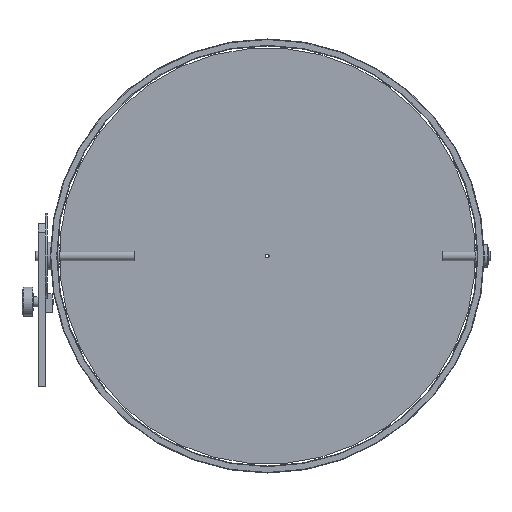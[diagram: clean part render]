
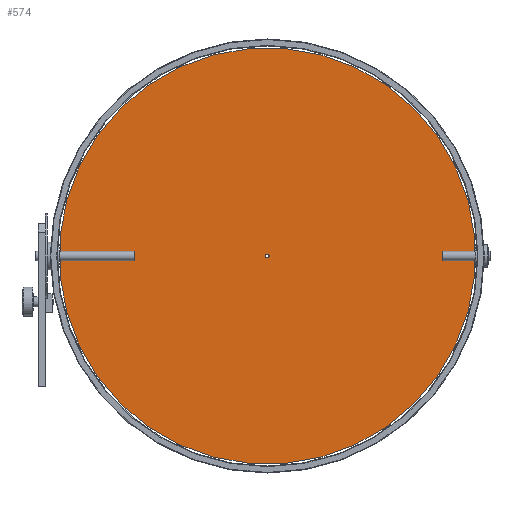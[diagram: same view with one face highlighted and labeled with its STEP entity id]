
A CAD part, left-side view. The second image highlights one B-rep face of the part: STEP entity #574.
In plain terms, the highlighted planar face has unit normal (-1, 0, 0).
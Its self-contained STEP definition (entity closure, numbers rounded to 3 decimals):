
#235=LINE('',#2901,#277);
#240=LINE('',#2915,#282);
#277=VECTOR('',#2340,1.);
#282=VECTOR('',#2353,1.);
#457=FACE_BOUND('',#859,.T.);
#458=FACE_BOUND('',#860,.T.);
#459=FACE_BOUND('',#861,.T.);
#460=FACE_BOUND('',#862,.T.);
#461=FACE_BOUND('',#863,.T.);
#462=FACE_BOUND('',#864,.T.);
#463=FACE_BOUND('',#865,.T.);
#464=FACE_BOUND('',#866,.T.);
#465=FACE_BOUND('',#867,.T.);
#574=ADVANCED_FACE('',(#457,#458,#459,#460,#461,#462,#463,#464,#465),#660,
 .T.);
#660=PLANE('',#2004);
#859=EDGE_LOOP('',(#1141,#1142,#1143,#1144));
#860=EDGE_LOOP('',(#1145));
#861=EDGE_LOOP('',(#1146));
#862=EDGE_LOOP('',(#1147));
#863=EDGE_LOOP('',(#1148));
#864=EDGE_LOOP('',(#1149));
#865=EDGE_LOOP('',(#1150));
#866=EDGE_LOOP('',(#1151));
#867=EDGE_LOOP('',(#1152));
#1141=ORIENTED_EDGE('',*,*,#1643,.T.);
#1142=ORIENTED_EDGE('',*,*,#1620,.T.);
#1143=ORIENTED_EDGE('',*,*,#1624,.T.);
#1144=ORIENTED_EDGE('',*,*,#1627,.T.);
#1145=ORIENTED_EDGE('',*,*,#1640,.T.);
#1146=ORIENTED_EDGE('',*,*,#1638,.F.);
#1147=ORIENTED_EDGE('',*,*,#1636,.F.);
#1148=ORIENTED_EDGE('',*,*,#1634,.F.);
#1149=ORIENTED_EDGE('',*,*,#1632,.F.);
#1150=ORIENTED_EDGE('',*,*,#1630,.F.);
#1151=ORIENTED_EDGE('',*,*,#1628,.F.);
#1152=ORIENTED_EDGE('',*,*,#1644,.T.);
#1445=VERTEX_POINT('',#2900);
#1446=VERTEX_POINT('',#2902);
#1448=VERTEX_POINT('',#2908);
#1450=VERTEX_POINT('',#2914);
#1451=VERTEX_POINT('',#2918);
#1453=VERTEX_POINT('',#2923);
#1455=VERTEX_POINT('',#2928);
#1457=VERTEX_POINT('',#2933);
#1459=VERTEX_POINT('',#2938);
#1461=VERTEX_POINT('',#2943);
#1463=VERTEX_POINT('',#2948);
#1465=VERTEX_POINT('',#2956);
#1620=EDGE_CURVE('',#1446,#1445,#235,.T.);
#1624=EDGE_CURVE('',#1445,#1448,#1796,.T.);
#1627=EDGE_CURVE('',#1448,#1450,#240,.T.);
#1628=EDGE_CURVE('',#1451,#1451,#1797,.T.);
#1630=EDGE_CURVE('',#1453,#1453,#1799,.T.);
#1632=EDGE_CURVE('',#1455,#1455,#1801,.T.);
#1634=EDGE_CURVE('',#1457,#1457,#1803,.T.);
#1636=EDGE_CURVE('',#1459,#1459,#1805,.T.);
#1638=EDGE_CURVE('',#1461,#1461,#1807,.T.);
#1640=EDGE_CURVE('',#1463,#1463,#1809,.T.);
#1643=EDGE_CURVE('',#1450,#1446,#1812,.T.);
#1644=EDGE_CURVE('',#1465,#1465,#1813,.T.);
#1796=CIRCLE('',#1974,446.);
#1797=CIRCLE('',#1977,4.);
#1799=CIRCLE('',#1980,4.);
#1801=CIRCLE('',#1983,4.);
#1803=CIRCLE('',#1986,4.);
#1805=CIRCLE('',#1989,4.);
#1807=CIRCLE('',#1992,4.);
#1809=CIRCLE('',#1995,4.);
#1812=CIRCLE('',#1999,446.);
#1813=CIRCLE('',#2001,4.);
#1974=AXIS2_PLACEMENT_3D('',#2909,#2347,#2348);
#1977=AXIS2_PLACEMENT_3D('',#2917,#2356,#2357);
#1980=AXIS2_PLACEMENT_3D('',#2922,#2362,#2363);
#1983=AXIS2_PLACEMENT_3D('',#2927,#2368,#2369);
#1986=AXIS2_PLACEMENT_3D('',#2932,#2374,#2375);
#1989=AXIS2_PLACEMENT_3D('',#2937,#2380,#2381);
#1992=AXIS2_PLACEMENT_3D('',#2942,#2386,#2387);
#1995=AXIS2_PLACEMENT_3D('',#2947,#2392,#2393);
#1999=AXIS2_PLACEMENT_3D('',#2953,#2400,#2401);
#2001=AXIS2_PLACEMENT_3D('',#2955,#2404,#2405);
#2004=AXIS2_PLACEMENT_3D('',#2960,#2410,#2411);
#2340=DIRECTION('',(0.,0.,1.));
#2347=DIRECTION('',(-1.,0.,0.));
#2348=DIRECTION('',(0.,0.,1.));
#2353=DIRECTION('',(0.,0.,-1.));
#2356=DIRECTION('',(-1.,0.,0.));
#2357=DIRECTION('',(0.,0.,1.));
#2362=DIRECTION('',(-1.,0.,0.));
#2363=DIRECTION('',(0.,0.,1.));
#2368=DIRECTION('',(-1.,0.,0.));
#2369=DIRECTION('',(0.,0.,1.));
#2374=DIRECTION('',(-1.,0.,0.));
#2375=DIRECTION('',(0.,0.,1.));
#2380=DIRECTION('',(-1.,0.,0.));
#2381=DIRECTION('',(0.,0.,1.));
#2386=DIRECTION('',(-1.,0.,0.));
#2387=DIRECTION('',(0.,0.,1.));
#2392=DIRECTION('',(1.,0.,0.));
#2393=DIRECTION('',(0.,0.,1.));
#2400=DIRECTION('',(-1.,0.,0.));
#2401=DIRECTION('',(0.,0.,1.));
#2404=DIRECTION('',(1.,0.,0.));
#2405=DIRECTION('',(0.,0.,1.));
#2410=DIRECTION('',(-1.,0.,0.));
#2411=DIRECTION('',(0.,0.,1.));
#2900=CARTESIAN_POINT('',(-1.2,-553.,167.19));
#2901=CARTESIAN_POINT('',(-1.2,-553.,82.81));
#2902=CARTESIAN_POINT('',(-1.2,-553.,82.81));
#2908=CARTESIAN_POINT('',(-1.2,335.,167.19));
#2909=CARTESIAN_POINT('',(-1.2,-109.,125.));
#2914=CARTESIAN_POINT('',(-1.2,335.,82.81));
#2915=CARTESIAN_POINT('',(-1.2,335.,167.19));
#2917=CARTESIAN_POINT('',(-1.2,-109.,125.));
#2918=CARTESIAN_POINT('',(-1.2,-109.,129.));
#2922=CARTESIAN_POINT('',(-1.2,221.,125.));
#2923=CARTESIAN_POINT('',(-1.2,221.,129.));
#2927=CARTESIAN_POINT('',(-1.2,251.,125.));
#2928=CARTESIAN_POINT('',(-1.2,251.,129.));
#2932=CARTESIAN_POINT('',(-1.2,191.,125.));
#2933=CARTESIAN_POINT('',(-1.2,191.,129.));
#2937=CARTESIAN_POINT('',(-1.2,311.,125.));
#2938=CARTESIAN_POINT('',(-1.2,311.,129.));
#2942=CARTESIAN_POINT('',(-1.2,281.,125.));
#2943=CARTESIAN_POINT('',(-1.2,281.,129.));
#2947=CARTESIAN_POINT('',(-1.2,-529.,125.));
#2948=CARTESIAN_POINT('',(-1.2,-529.,129.));
#2953=CARTESIAN_POINT('',(-1.2,-109.,125.));
#2955=CARTESIAN_POINT('',(-1.2,-499.,125.));
#2956=CARTESIAN_POINT('',(-1.2,-499.,129.));
#2960=CARTESIAN_POINT('',(-1.2,-109.,125.));
